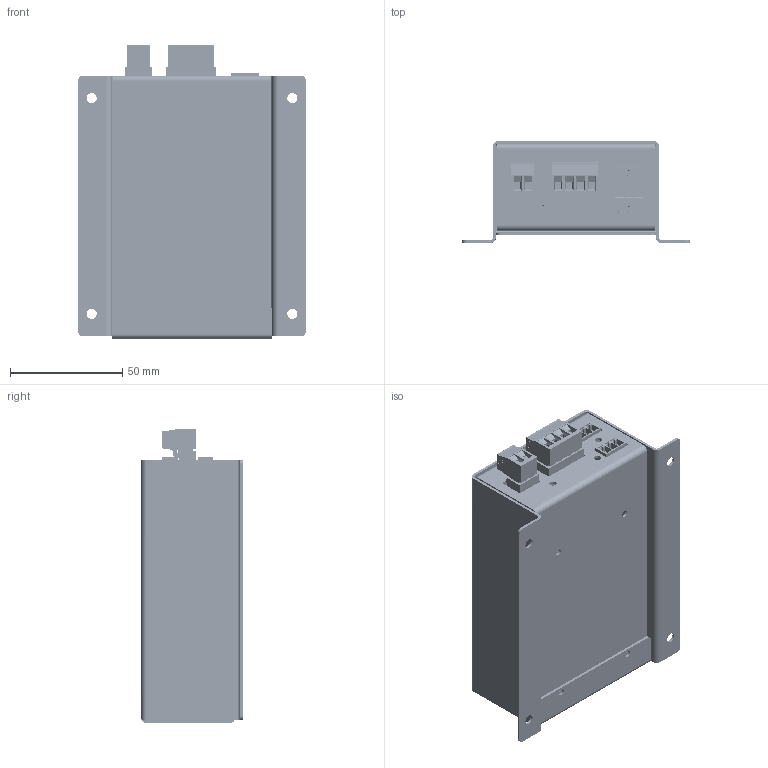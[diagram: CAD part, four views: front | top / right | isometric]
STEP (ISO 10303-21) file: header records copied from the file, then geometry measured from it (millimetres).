
FILE_DESCRIPTION (( 'STEP AP214' ), '1' );
FILE_NAME ('Scatola DDS1062.STEP', '2020-03-19T09:47:08', ( '' ), ( '' ), 'SwSTEP 2.0', 'SolidWorks 2020', '' );
FILE_SCHEMA (( 'AUTOMOTIVE_DESIGN' ));
Length unit declared in the file: millimetre
Products named in the file (7): DDS1062-CPU; MEC428.02.00 Coperchio; MEC428.01.00 Base; DDS1062-CN; Scatola DDS1062; MSTB 2,5 2-ST-5,08 -1757019; MSTB 2,5 4-ST-5,08 - 1757035
Assembly tree (6 placements, depth 2):
  Scatola DDS1062
    MEC428.01.00 Base
    DDS1062-CPU
    MEC428.02.00 Coperchio
    DDS1062-CN
    MSTB 2,5 2-ST-5,08 -1757019
    MSTB 2,5 4-ST-5,08 - 1757035
Bounding box: 101.4 x 45.4 x 131.14 mm (x, y, z)
Volume: 53724.2 mm3; surface area: 103411.6 mm2
Topology: 128 solids, 352 shells, 8722 faces, 21919 edges, 14113 vertices
Faces by surface type: plane 4598, cylinder 2825, bspline 603, torus 510, sphere 162, cone 24
Entity records: 326022 total; most frequent: CARTESIAN_POINT 89931, DIRECTION 44271, ORIENTED_EDGE 43504, EDGE_CURVE 21753, AXIS2_PLACEMENT_3D 15797, VERTEX_POINT 14065, VECTOR 12677, LINE 12677
